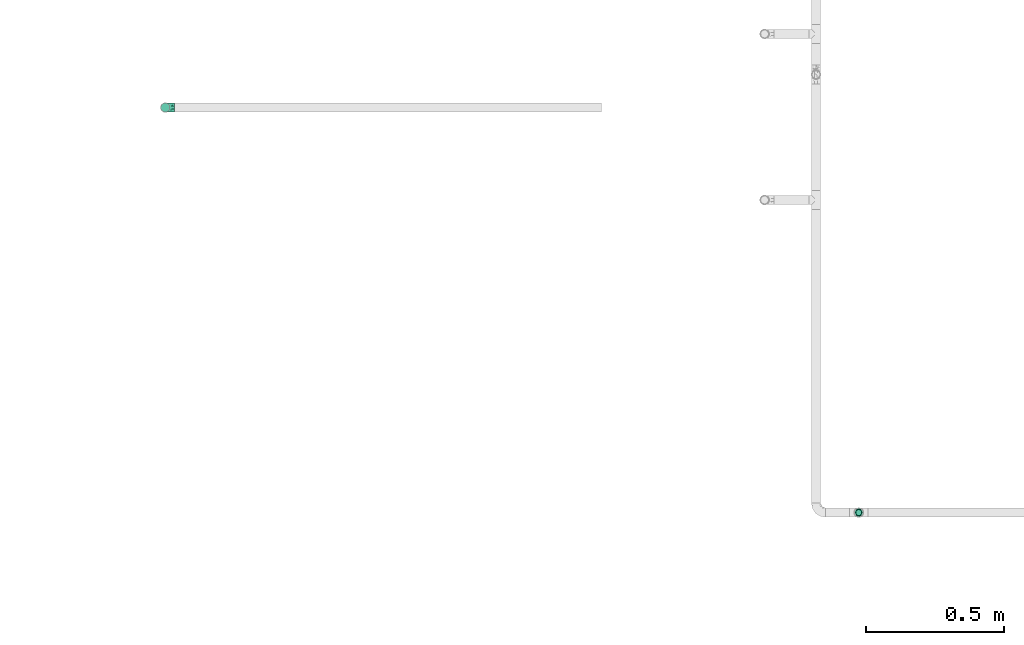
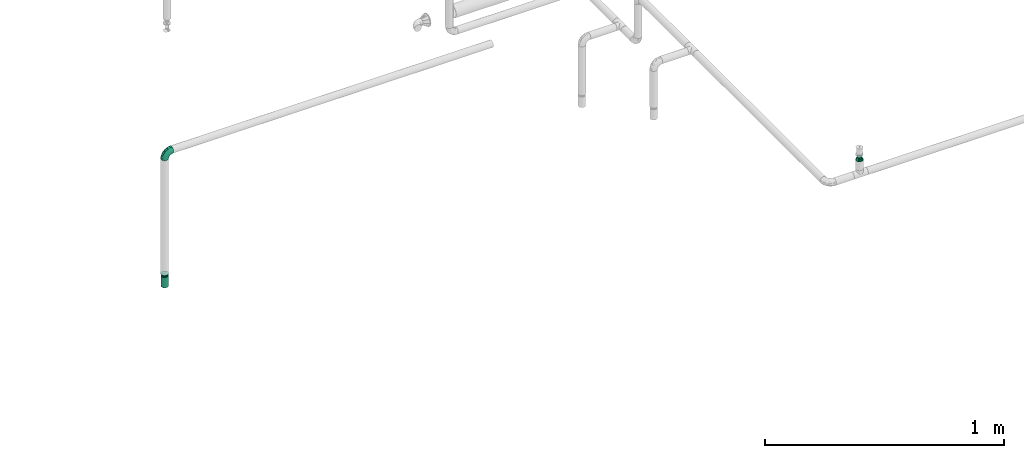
# One storey, part 51 of 157: 3 flow fittings, 1 flow terminal.
"""IFC2X3 building model written with IfcOpenShell, lengths in millimetres."""

from ifc_helpers import new_model, entity, si_unit, converted_unit, derived_unit, direction, frame, origin_with_axes, place, context, subcontext, project, spatial, open_shell, surface_model, source, transform, mapped, type_object, element, save


model = new_model("IFC2X3")

# Units and contexts
model_context = context("Model", 3, precision=0.01, world=frame((0.0, 4.29681676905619e-09, 0.0)), true_north=direction((4.01073788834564e-13, 1.0)))
plan_context = context("Plan", 3, precision=0.01, world=frame((0.0, 4.29681676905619e-09, 0.0)), true_north=direction((4.01073788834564e-13, 1.0)))
body_context = subcontext(model_context, "Body", "Model", "MODEL_VIEW")
ifc_project = project(units=[converted_unit("PLANEANGLEUNIT", "DEGREE", entity("IfcPositiveLengthMeasure", 0.0174532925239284), si_unit("PLANEANGLEUNIT", "RADIAN"), dimensions=[0, 0, 0, 0, 0, 0, 0]), si_unit("AREAUNIT", "SQUARE_METRE"), si_unit("LENGTHUNIT", "METRE", prefix="MILLI"), si_unit("MASSUNIT", "GRAM", prefix="KILO"), si_unit("POWERUNIT", "WATT"), si_unit("PRESSUREUNIT", "PASCAL"), si_unit("FORCEUNIT", "NEWTON", prefix="KILO"), si_unit("ELECTRICCURRENTUNIT", "AMPERE"), si_unit("THERMODYNAMICTEMPERATUREUNIT", "DEGREE_CELSIUS"), si_unit("TIMEUNIT", "SECOND"), si_unit("VOLUMEUNIT", "CUBIC_METRE"), derived_unit("LINEARVELOCITYUNIT", [(si_unit("LENGTHUNIT", "METRE"), 1), (si_unit("TIMEUNIT", "SECOND"), -1)]), derived_unit("VOLUMETRICFLOWRATEUNIT", [(si_unit("VOLUMEUNIT", "CUBIC_METRE"), 1), (si_unit("TIMEUNIT", "SECOND"), -1)]), derived_unit("THERMALTRANSMITTANCEUNIT", [(si_unit("POWERUNIT", "WATT"), 1), (si_unit("THERMODYNAMICTEMPERATUREUNIT", "KELVIN"), -1), (si_unit("AREAUNIT", "SQUARE_METRE"), -1)])], contexts=[model_context, plan_context])

# Site, building, storey
site_placement = place(None, frame((0.0, -4.29681676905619e-09, 0.0), z_axis=(0.0, 0.0, 1.0), x_axis=(1.0, 0.0, 0.0)))
site = spatial("IfcSite", under=ifc_project, at=site_placement, CompositionType="ELEMENT")
building_placement = place(site_placement, frame((0.0, 4.29681676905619e-09, 0.0), z_axis=(0.0, 0.0, 1.0), x_axis=(1.0, 0.0, 0.0)))
building = spatial("IfcBuilding", under=site, at=building_placement, Name="mc-building", CompositionType="ELEMENT")
storey_placement = place(building_placement, frame((0.0, 0.0, 204000.0), z_axis=(0.0, 0.0, 1.0), x_axis=(1.0, 0.0, 0.0)))
storey = spatial("IfcBuildingStorey", under=building, at=storey_placement, Name="Nivå D", CompositionType="ELEMENT", Elevation=204000.0)

# Flow fittings
pipe_fitting_type_1 = type_object("IfcPipeFittingType", Name="magi_pipe_fe_elbow_short_001", PredefinedType="BEND")
shared_shape_1 = source(origin_with_axes(), body_context, "Body", "SurfaceModel", [
    surface_model("IfcShellBasedSurfaceModel", [(-33.8, 8.45, -14.63583), (-33.8, 4.37404, -16.32415), (-33.8, 11.9501, -11.9501), (-33.8, -11.9501, -11.9501), (-33.8, -14.63583, -8.45), (-33.8, -8.45, -14.63583), (-33.8, 0.0, -16.9), (-33.8, -4.37404, -16.32415), (-33.8, -4.37404, 16.32415), (-33.8, 0.0, 16.9), (-33.8, -8.45, 14.63583), (-33.8, 16.32415, -4.37404), (-33.8, 14.63583, -8.45), (-33.8, -16.32415, -4.37404), (-33.8, -16.9, 0.0), (-33.8, -16.32415, 4.37404), (-33.8, 11.9501, 11.9501), (-33.8, 14.63583, 8.45), (-33.8, 16.32415, 4.37404), (-33.8, 4.37404, 16.32415), (-33.8, 8.45, 14.63583), (-33.8, -14.63583, 8.45), (-33.8, -11.9501, 11.9501), (-33.8, 16.9, 0.0), (-11.9501, 33.8, -11.9501), (0.0, 33.8, -16.9), (-4.37404, 33.8, -16.32415), (-8.45, 33.8, -14.63583), (-14.63583, 33.8, -8.45), (-16.32415, 33.8, -4.37404), (14.63583, 33.8, -8.45), (8.45, 33.8, 14.63583), (16.32415, 33.8, -4.37404), (8.45, 33.8, -14.63583), (11.9501, 33.8, -11.9501), (4.37404, 33.8, -16.32415), (16.32415, 33.8, 4.37404), (16.9, 33.8, 0.0), (-11.9501, 33.8, 11.9501), (-16.32415, 33.8, 4.37404), (-14.63583, 33.8, 8.45), (-8.45, 33.8, 14.63583), (-4.37404, 33.8, 16.32415), (11.9501, 33.8, 11.9501), (14.63583, 33.8, 8.45), (0.0, 33.8, 16.9), (4.37404, 33.8, 16.32415), (-16.9, 33.8, 0.0), (-24.79389, -13.12945, 9.48721), (-22.19287, -9.75018, 12.59315), (-24.09897, -14.97035, 0.0), (-14.93934, -10.76256, 8.5297), (-22.46095, -14.75051, 5.27077), (14.75051, 22.46094, 5.27077), (11.9251, 13.23888, 4.33236), (13.04069, 14.39795, 0.0), (7.71387, 13.68847, 11.55891), (9.75018, 22.19287, 12.59315), (4.10169, 13.0571, 14.04018), (-24.84007, -6.39063, 15.2048), (-25.81779, -2.23879, 16.61097), (-23.66549, 2.59054, 16.87119), (-26.50418, 14.06512, 11.08152), (-24.21253, 17.66365, 7.72657), (-29.58514, 15.86957, 7.00283), (-6.17382, -7.5455, 0.0), (-13.23888, -11.9251, 4.33236), (-14.39795, -13.04069, 0.0), (-17.81434, 18.87373, 11.97104), (-6.30846, 29.15138, 15.82987), (-2.31622, 25.28002, 16.85849), (-29.23923, 10.23435, 13.77053), (-1.45439, -2.85688, 7.61475), (-0.28326, 0.34872, 10.09509), (-5.74484, -4.04709, 10.4122), (-4.41137, 11.31918, 16.59407), (-8.39727, 3.10034, 15.7812), (-1.72649, 9.1306, 15.53089), (-17.39909, 24.75344, 7.64977), (-26.19233, 20.0512, 0.0), (-28.14518, 17.29657, 4.25857), (-26.05147, 6.6281, 15.96447), (-5.87354, 16.61944, 16.86968), (-12.51807, 12.51807, 16.48937), (-10.06312, 7.38516, 16.81295), (-3.01882, 3.01882, 13.81718), (-13.0571, -4.10169, 14.04018), (-16.82553, -0.15166, 16.38038), (10.76256, 14.93934, 8.5297), (13.12945, 24.79389, 9.48721), (6.39063, 24.84007, 15.2048), (2.23879, 25.81779, 16.61097), (-13.68847, -7.71387, 11.55891), (14.97035, 24.09897, 0.0), (-7.30894, 22.89991, 16.09489), (-10.67958, 26.17414, 14.008), (-12.78295, 18.26924, 15.06066), (-13.88562, 22.45231, 12.93244), (-18.04944, 15.16501, 14.04434), (-23.11658, 20.08178, 4.02986), (-21.84989, 21.84989, 0.0), (-18.55817, 25.48277, 3.93065), (-13.95142, 26.94732, 11.03289), (-18.57098, 7.23906, 16.59756), (-16.58335, 4.14122, 16.89279), (-17.96666, 11.46709, 15.63151), (-9.84453, 17.54304, 16.18938), (0.15166, 16.82553, 16.38038), (-23.27207, 11.47201, 14.23154), (3.84842, 5.86994, 10.70473), (-8.0212, -7.54413, 7.93275), (1.00345, -2.19508, 4.57414), (5.13203, 3.01004, 5.90201), (5.24161, 1.7543, 2.53265), (8.70457, 7.04947, 3.99182), (-20.0512, 26.19233, 0.0), (8.4852, 8.76699, 7.09296), (-4.55488, -6.72064, 4.90681), (2.05031, -2.05031, 0.0), (7.5455, 6.17382, 0.0), (-26.75399, 2.1369, -16.845), (-14.61995, 24.73803, -11.27736), (-28.45274, -13.45335, -9.81895), (-26.00469, 6.63555, -15.96645), (-23.06726, 20.04573, -4.26202), (-13.80647, -4.26506, -14.17873), (-14.67501, -0.21081, -16.07388), (-6.7902, -0.2828, -13.8478), (-24.53586, 11.08096, -14.13417), (-26.72048, 14.00837, -11.05776), (10.0967, 24.44989, -12.75976), (5.83237, 21.40218, -15.03047), (6.66249, 28.54238, -15.38093), (-20.38182, 15.48705, -12.74596), (12.53268, 21.23441, -9.15363), (12.54494, 15.67504, -5.54878), (9.7522, 12.89279, -8.66343), (-15.65186, 19.64213, -13.01327), (-12.03528, 20.66498, -14.67665), (-15.61907, 15.61906, -14.83879), (-25.56551, -15.26206, 0.0), (-24.65452, -15.12934, -5.50955), (13.45335, 28.45274, -9.81895), (15.12934, 24.65452, -5.50955), (-7.35442, -8.31014, -5.65563), (-15.67504, -12.54494, -5.54878), (-24.44989, -10.0967, -12.75976), (0.16522, 0.41303, -9.71728), (-5.70658, -5.33066, -8.89288), (-5.13869, -2.37198, -11.53565), (-21.23441, -12.53268, -9.15363), (0.71146, 7.93863, -14.09382), (0.21081, 14.67501, -16.07388), (3.49291, 14.42772, -14.76381), (-24.89911, -2.13088, -16.591), (-28.54238, -6.66249, -15.38093), (-18.44386, -7.71663, -13.26957), (2.13088, 24.89911, -16.591), (-28.64342, 17.44413, -2.89318), (1.70017, -1.28722, -5.09504), (-16.57067, 26.81947, -7.36596), (-17.69055, 27.4263, -3.76405), (-12.89279, -9.7522, -8.66343), (-5.96611, 5.96611, -15.95814), (-20.53709, 20.09345, -8.28985), (-2.1369, 26.75399, -16.845), (-6.89872, 24.58781, -16.02578), (-10.60739, 26.53157, -13.98044), (-21.40218, -5.83237, -15.03047), (2.93192, 5.89627, -11.55917), (6.89393, 12.61842, -11.82233), (5.58056, 5.95325, -8.79455), (-3.99512, 18.61798, -16.89635), (8.31014, 7.35442, -5.65563), (-9.1383, 9.86148, -16.89041), (-9.99983, 16.02119, -16.39699), (-16.68576, 9.78031, -16.34199), (-27.01915, 16.61158, -7.12979), (15.26206, 25.56551, 0.0), (-18.61798, 3.99512, -16.89635), (-19.37495, 27.82495, 0.0), (-12.61842, -6.89393, -11.82233), (-18.84705, 19.14018, -10.96545)], [open_shell([[[0, 1, 2]], [[3, 4, 5]], [[6, 7, 5]], [[8, 9, 10]], [[1, 6, 2]], [[11, 12, 2]], [[4, 2, 6]], [[2, 13, 10]], [[5, 4, 6]], [[2, 4, 13]], [[14, 15, 13]], [[11, 2, 16]], [[11, 17, 18]], [[11, 16, 17]], [[19, 20, 16]], [[16, 2, 10]], [[19, 16, 10]], [[21, 22, 15]], [[22, 13, 15]], [[22, 10, 13]], [[10, 9, 19]], [[11, 18, 23]], [[24, 25, 26]], [[24, 26, 27]], [[24, 28, 29]], [[25, 24, 30]], [[31, 32, 24]], [[33, 30, 34]], [[33, 35, 25]], [[25, 30, 33]], [[32, 30, 24]], [[32, 36, 37]], [[38, 24, 29]], [[39, 40, 29]], [[40, 38, 29]], [[38, 41, 42]], [[38, 31, 24]], [[31, 38, 42]], [[36, 43, 44]], [[36, 32, 43]], [[31, 45, 46]], [[32, 31, 43]], [[42, 45, 31]], [[39, 29, 47]], [[22, 48, 49]], [[15, 14, 50]], [[51, 48, 52]], [[53, 54, 55]], [[48, 22, 21]], [[15, 52, 21]], [[56, 57, 58]], [[49, 10, 22]], [[49, 59, 10]], [[9, 60, 61]], [[62, 63, 64]], [[65, 66, 67]], [[57, 43, 31]], [[62, 68, 63]], [[42, 69, 70]], [[20, 71, 16]], [[8, 60, 9]], [[72, 73, 74]], [[75, 76, 77]], [[16, 62, 17]], [[40, 39, 78]], [[79, 23, 80]], [[64, 18, 17]], [[9, 61, 19]], [[19, 81, 20]], [[82, 83, 84]], [[74, 85, 86]], [[59, 86, 87]], [[88, 89, 57]], [[90, 31, 46]], [[44, 53, 36]], [[46, 45, 91]], [[54, 53, 88]], [[44, 89, 53]], [[92, 86, 49]], [[89, 44, 43]], [[10, 59, 8]], [[53, 55, 93]], [[93, 36, 53]], [[66, 52, 67]], [[94, 82, 70]], [[95, 96, 94]], [[97, 98, 96]], [[79, 99, 100]], [[41, 38, 95]], [[101, 100, 99]], [[68, 78, 63]], [[42, 41, 69]], [[23, 18, 80]], [[95, 94, 69]], [[78, 101, 99]], [[38, 102, 95]], [[70, 45, 42]], [[97, 95, 102]], [[15, 50, 52]], [[90, 57, 31]], [[57, 90, 58]], [[81, 19, 61]], [[103, 104, 84]], [[105, 81, 103]], [[38, 40, 102]], [[106, 96, 83]], [[94, 106, 82]], [[91, 70, 107]], [[71, 62, 16]], [[62, 108, 98]], [[86, 59, 49]], [[67, 52, 50]], [[60, 59, 87]], [[92, 49, 51]], [[86, 85, 76]], [[91, 90, 46]], [[37, 36, 93]], [[107, 77, 58]], [[107, 58, 90]], [[58, 85, 109]], [[110, 74, 92]], [[72, 74, 110]], [[66, 51, 52]], [[72, 111, 112]], [[113, 114, 112]], [[56, 88, 57]], [[52, 48, 21]], [[49, 48, 51]], [[57, 89, 43]], [[53, 89, 88]], [[103, 81, 61]], [[71, 81, 108]], [[18, 64, 80]], [[63, 78, 99]], [[47, 115, 101]], [[101, 115, 100]], [[40, 78, 102]], [[68, 102, 78]], [[97, 96, 95]], [[105, 98, 108]], [[103, 84, 83]], [[107, 70, 82]], [[76, 84, 87]], [[82, 84, 75]], [[70, 91, 45]], [[90, 91, 107]], [[59, 60, 8]], [[61, 60, 87]], [[73, 85, 74]], [[109, 112, 116]], [[103, 61, 104]], [[105, 103, 83]], [[96, 105, 83]], [[81, 105, 108]], [[96, 98, 105]], [[62, 98, 68]], [[61, 87, 104]], [[87, 84, 104]], [[86, 76, 87]], [[77, 76, 85]], [[58, 77, 85]], [[75, 77, 107]], [[82, 75, 107]], [[76, 75, 84]], [[81, 71, 20]], [[62, 71, 108]], [[95, 69, 41]], [[70, 69, 94]], [[62, 64, 17]], [[80, 63, 99]], [[63, 80, 64]], [[80, 99, 79]], [[66, 65, 117]], [[110, 66, 117]], [[112, 114, 116]], [[118, 117, 65]], [[110, 92, 51]], [[112, 111, 113]], [[119, 55, 54]], [[74, 86, 92]], [[58, 109, 56]], [[116, 56, 109]], [[66, 110, 51]], [[72, 110, 117]], [[111, 72, 117]], [[73, 112, 109]], [[117, 118, 111]], [[113, 111, 118]], [[118, 119, 113]], [[114, 119, 54]], [[119, 114, 113]], [[116, 54, 88]], [[54, 116, 114]], [[116, 88, 56]], [[112, 73, 72]], [[85, 73, 109]], [[78, 39, 101]], [[47, 101, 39]], [[102, 68, 97]], [[97, 68, 98]], [[82, 106, 83]], [[94, 96, 106]], [[1, 120, 6]], [[28, 24, 121]], [[3, 122, 4]], [[0, 123, 1]], [[100, 124, 79]], [[125, 126, 127]], [[128, 2, 129]], [[130, 131, 132]], [[128, 129, 133]], [[134, 135, 136]], [[137, 138, 139]], [[128, 0, 2]], [[67, 140, 141]], [[134, 142, 143]], [[141, 13, 4]], [[144, 65, 145]], [[146, 3, 5]], [[147, 148, 149]], [[145, 141, 150]], [[151, 152, 153]], [[154, 7, 6]], [[5, 155, 146]], [[150, 146, 156]], [[155, 5, 7]], [[143, 135, 134]], [[35, 157, 25]], [[23, 79, 158]], [[148, 159, 144]], [[160, 161, 29]], [[145, 162, 144]], [[163, 152, 151]], [[29, 28, 160]], [[121, 164, 160]], [[33, 34, 130]], [[25, 165, 26]], [[26, 165, 166]], [[142, 34, 30]], [[24, 27, 167]], [[124, 161, 164]], [[157, 35, 132]], [[155, 154, 168]], [[123, 0, 128]], [[169, 170, 171]], [[172, 157, 152]], [[26, 166, 27]], [[132, 35, 33]], [[142, 130, 34]], [[168, 154, 126]], [[136, 135, 173]], [[133, 137, 139]], [[2, 12, 129]], [[170, 131, 130]], [[30, 32, 143]], [[172, 174, 175]], [[176, 123, 128]], [[158, 177, 11]], [[135, 55, 119]], [[167, 27, 166]], [[175, 166, 172]], [[137, 167, 138]], [[122, 141, 4]], [[140, 14, 13]], [[32, 37, 178]], [[170, 130, 134]], [[152, 157, 131]], [[165, 157, 172]], [[153, 170, 151]], [[152, 163, 174]], [[168, 125, 156]], [[122, 146, 150]], [[120, 154, 6]], [[179, 174, 126]], [[179, 126, 154]], [[126, 163, 127]], [[162, 145, 150]], [[140, 13, 141]], [[32, 178, 143]], [[55, 143, 178]], [[177, 129, 12]], [[128, 133, 139]], [[176, 128, 139]], [[120, 123, 179]], [[121, 160, 28]], [[161, 100, 180]], [[166, 175, 138]], [[121, 24, 167]], [[161, 47, 29]], [[79, 124, 158]], [[124, 164, 177]], [[161, 124, 100]], [[136, 171, 170]], [[127, 163, 151]], [[147, 171, 159]], [[148, 144, 162]], [[127, 151, 169]], [[127, 181, 125]], [[129, 177, 164]], [[12, 11, 177]], [[159, 65, 144]], [[67, 141, 145]], [[143, 55, 135]], [[135, 119, 173]], [[123, 120, 1]], [[154, 120, 179]], [[157, 165, 25]], [[166, 165, 172]], [[172, 152, 174]], [[176, 139, 175]], [[126, 174, 163]], [[176, 174, 179]], [[174, 176, 175]], [[123, 176, 179]], [[150, 181, 162]], [[127, 149, 181]], [[181, 148, 162]], [[159, 148, 147]], [[171, 136, 173]], [[170, 134, 136]], [[159, 171, 173]], [[171, 147, 169]], [[169, 147, 149]], [[151, 170, 169]], [[164, 182, 129]], [[182, 121, 137]], [[181, 149, 148]], [[169, 149, 127]], [[182, 137, 133]], [[167, 137, 121]], [[166, 138, 167]], [[175, 139, 138]], [[129, 182, 133]], [[121, 182, 164]], [[161, 160, 164]], [[47, 161, 180]], [[177, 158, 124]], [[23, 158, 11]], [[130, 132, 33]], [[157, 132, 131]], [[143, 142, 30]], [[130, 142, 134]], [[154, 155, 7]], [[146, 155, 168]], [[146, 122, 3]], [[141, 122, 150]], [[152, 131, 153]], [[159, 119, 118]], [[67, 145, 65]], [[170, 153, 131]], [[119, 159, 173]], [[159, 118, 65]], [[156, 125, 181]], [[126, 125, 168]], [[150, 156, 181]], [[168, 156, 146]]])]),
])
flow_fitting_placement = place(storey_placement, frame((516334.09988, 413334.05389, 3030.0), z_axis=(0.0, 1.0, 0.0), x_axis=(0.0, 0.0, 1.0)))
element("IfcFlowFitting", 1, at=flow_fitting_placement, inside=storey, type_object=pipe_fitting_type_1, Name="magi_pipe_fe_elbow_short_001", context=body_context, shape_type="MappedRepresentation", body=[
    mapped(shared_shape_1, transform((0.0, 0.0, 0.0), scale=1.0)),
])
pipe_fitting_type_2 = type_object("IfcPipeFittingType", Name="magi_pipe_fe_reducer_centric_short_NOR", PredefinedType="TRANSITION")
shared_shape_2 = source(origin_with_axes(), body_context, "Body", "SurfaceModel", [
    surface_model("IfcShellBasedSurfaceModel", [(-2.0, -7.56604, -7.56604), (-2.0, -10.33541, -2.76936), (-2.0, -5.35, -9.26647), (-2.0, 5.35, -9.26647), (-2.0, 10.33541, -2.76936), (-2.0, 7.56604, -7.56604), (12.4, 11.9501, 11.9501), (12.4, 0.0, 16.9), (12.4, 11.9501, -11.9501), (12.4, 16.9, 0.0), (0.0, -10.7, 0.0), (0.0, -5.35, 9.26647), (0.0, -5.35, -9.26647), (0.0, 10.7, 0.0), (12.4, 15.66253, -2.98753), (12.4, 8.96258, -13.18758), (0.0, 6.6875, -6.94985), (12.4, -15.66253, -2.98753), (12.4, -16.9, 0.0), (12.4, 5.97505, -14.42505), (0.0, 5.35, -9.26647), (12.4, 14.42505, -5.97505), (0.0, 8.025, -4.63324), (0.0, 9.3625, -2.31662), (0.0, -9.3625, -2.31662), (0.0, -8.025, -4.63324), (12.4, -14.42505, -5.97505), (12.4, 13.18758, -8.96258), (12.4, -13.18758, -8.96258), (12.4, -11.9501, -11.9501), (0.0, -6.6875, -6.94985), (12.4, -8.96258, -13.18758), (12.4, -5.97505, -14.42505), (12.4, -15.66253, 2.98753), (12.4, -8.96258, 13.18758), (0.0, -6.6875, 6.94985), (12.4, -11.9501, 11.9501), (12.4, 15.66253, 2.98753), (12.4, -5.97505, 14.42505), (12.4, -14.42505, 5.97505), (0.0, -8.025, 4.63324), (0.0, -9.3625, 2.31662), (0.0, 9.3625, 2.31662), (0.0, 8.025, 4.63324), (12.4, 14.42505, 5.97505), (12.4, -13.18758, 8.96258), (12.4, 13.18758, 8.96258), (0.0, 6.6875, 6.94985), (12.4, 8.96258, 13.18758), (0.0, 5.35, 9.26647), (12.4, 5.97505, 14.42505), (14.4, 4.37404, -16.32415), (14.4, 8.45, -14.63583), (14.4, 11.9501, -11.9501), (14.4, -8.45, -14.63583), (14.4, 16.32415, -4.37404), (14.4, 16.32415, 4.37404), (14.4, 14.63583, -8.45), (14.4, 0.0, -16.9), (14.4, -4.37404, -16.32415), (14.4, -11.9501, -11.9501), (14.4, -16.32415, -4.37404), (14.4, -14.63583, -8.45), (14.4, -16.32415, 4.37404), (14.4, 16.9, 0.0), (14.4, 14.63583, 8.45), (14.4, 11.9501, 11.9501), (14.4, 4.37404, 16.32415), (14.4, 8.45, 14.63583), (14.4, 0.0, 16.9), (14.4, -14.63583, 8.45), (14.4, -16.9, 0.0), (14.4, -8.45, 14.63583), (14.4, -11.9501, 11.9501), (14.4, -4.37404, 16.32415), (12.4, 4.37404, 16.32415), (12.4, -14.63583, 8.45), (12.4, 16.32415, 4.37404), (12.4, 8.45, 14.63583), (12.4, 14.63583, 8.45), (12.4, -8.45, 14.63583), (12.4, -4.37404, 16.32415), (12.4, -16.32415, 4.37404), (12.4, -16.32415, -4.37404), (12.4, -8.45, -14.63583), (12.4, 16.32415, -4.37404), (12.4, 14.63583, -8.45), (12.4, 8.45, -14.63583), (12.4, 4.37404, -16.32415), (12.4, 0.0, -16.9), (12.4, -14.63583, -8.45), (12.4, -4.37404, -16.32415), (-2.0, 2.76936, 10.33541), (-2.0, 0.0, 10.7), (-2.0, 5.35, 9.26647), (-2.0, 7.56604, 7.56604), (-2.0, 9.26647, 5.35), (-2.0, 10.33541, 2.76936), (-2.0, -10.33541, 2.76936), (-2.0, -2.76936, 10.33541), (-2.0, -7.56604, 7.56604), (-2.0, -5.35, 9.26647), (-2.0, -9.26647, 5.35), (-2.0, -10.7, 0.0), (-2.0, 9.26647, -5.35), (-2.0, 2.76936, -10.33541), (-2.0, -9.26647, -5.35), (-2.0, 0.0, -10.7), (-2.0, -2.76936, -10.33541), (-2.0, 10.7, 0.0), (0.0, 0.0, -10.7), (0.0, 2.76936, -10.33541), (0.0, 10.33541, -2.76936), (0.0, 7.56604, -7.56604), (0.0, -10.33541, -2.76936), (0.0, 9.26647, -5.35), (0.0, 0.0, 10.7), (0.0, -2.76936, -10.33541), (0.0, -7.56604, -7.56604), (0.0, -9.26647, -5.35), (0.0, 10.33541, 2.76936), (0.0, 9.26647, 5.35), (0.0, 7.56604, 7.56604), (0.0, 2.76936, 10.33541), (0.0, -7.56604, 7.56604), (0.0, -10.33541, 2.76936), (0.0, -9.26647, 5.35), (0.0, -2.76936, 10.33541), (0.0, 2.675, -9.26647), (0.0, -2.675, -9.26647), (12.4, 2.98753, -15.66253), (0.0, 0.0, -9.26647), (12.4, -2.98753, -15.66253), (0.0, -2.675, 9.26647), (0.0, 2.675, 9.26647), (12.4, -2.98753, 15.66253), (0.0, 0.0, 9.26647), (12.4, 2.98753, 15.66253)], [open_shell([[[0, 1, 2]], [[3, 4, 5]], [[6, 7, 8]], [[8, 9, 6]], [[10, 11, 12]], [[13, 9, 14]], [[15, 16, 8]], [[17, 18, 10]], [[15, 19, 20]], [[21, 22, 23]], [[24, 25, 26]], [[22, 21, 27]], [[28, 26, 25]], [[29, 30, 31]], [[12, 32, 31]], [[10, 18, 33]], [[34, 35, 36]], [[37, 9, 13]], [[34, 38, 11]], [[39, 40, 41]], [[42, 43, 44]], [[40, 39, 45]], [[46, 44, 43]], [[6, 47, 48]], [[49, 50, 48]], [[51, 52, 53]], [[54, 51, 53]], [[53, 55, 56]], [[55, 53, 57]], [[53, 56, 54]], [[58, 54, 59]], [[58, 51, 54]], [[60, 61, 62]], [[61, 60, 54]], [[54, 63, 61]], [[56, 55, 64]], [[56, 65, 66]], [[56, 66, 67]], [[67, 63, 54]], [[67, 66, 68]], [[63, 67, 69]], [[69, 70, 63]], [[71, 61, 63]], [[70, 72, 73]], [[70, 69, 72]], [[72, 69, 74]], [[54, 56, 67]], [[75, 76, 7]], [[77, 75, 78]], [[6, 79, 77]], [[6, 77, 78]], [[76, 75, 77]], [[80, 76, 36]], [[80, 81, 7]], [[7, 76, 80]], [[82, 76, 77]], [[82, 83, 18]], [[82, 77, 84]], [[77, 85, 8]], [[8, 85, 86]], [[8, 87, 88]], [[84, 77, 8]], [[88, 89, 8]], [[83, 29, 90]], [[29, 83, 84]], [[84, 89, 91]], [[83, 82, 84]], [[8, 89, 84]], [[85, 77, 9]], [[83, 61, 18]], [[90, 62, 83]], [[54, 29, 84]], [[90, 29, 60]], [[59, 84, 91]], [[83, 62, 61]], [[61, 71, 18]], [[59, 54, 84]], [[60, 29, 54]], [[60, 62, 90]], [[58, 59, 91]], [[91, 89, 58]], [[88, 51, 89]], [[87, 52, 88]], [[57, 8, 86]], [[87, 8, 53]], [[55, 86, 85]], [[87, 53, 52]], [[52, 51, 88]], [[64, 55, 85]], [[57, 86, 55]], [[57, 53, 8]], [[9, 64, 85]], [[89, 51, 58]], [[77, 56, 9]], [[79, 65, 77]], [[68, 6, 78]], [[79, 6, 66]], [[67, 78, 75]], [[77, 65, 56]], [[56, 64, 9]], [[67, 68, 78]], [[66, 6, 68]], [[66, 65, 79]], [[69, 67, 75]], [[75, 7, 69]], [[81, 74, 7]], [[80, 72, 81]], [[70, 36, 76]], [[80, 36, 73]], [[63, 76, 82]], [[80, 73, 72]], [[72, 74, 81]], [[71, 63, 82]], [[70, 76, 63]], [[70, 73, 36]], [[18, 71, 82]], [[7, 74, 69]], [[92, 1, 93]], [[94, 1, 92]], [[95, 96, 97]], [[95, 97, 94]], [[98, 93, 1]], [[99, 100, 101]], [[99, 93, 100]], [[100, 98, 102]], [[93, 98, 100]], [[98, 1, 103]], [[94, 97, 1]], [[1, 97, 4]], [[5, 4, 104]], [[4, 3, 1]], [[105, 1, 3]], [[1, 0, 106]], [[2, 107, 108]], [[2, 1, 105]], [[105, 107, 2]], [[4, 97, 109]], [[20, 110, 111]], [[112, 20, 113]], [[114, 20, 112]], [[112, 113, 115]], [[116, 114, 112]], [[110, 12, 117]], [[110, 20, 12]], [[118, 114, 119]], [[114, 118, 12]], [[20, 114, 12]], [[112, 13, 120]], [[120, 121, 122]], [[120, 122, 123]], [[116, 112, 123]], [[123, 122, 49]], [[116, 124, 114]], [[125, 124, 126]], [[10, 114, 125]], [[124, 127, 11]], [[125, 114, 124]], [[127, 124, 116]], [[123, 112, 120]], [[1, 114, 103]], [[106, 119, 1]], [[12, 0, 2]], [[106, 0, 118]], [[117, 2, 108]], [[1, 119, 114]], [[114, 10, 103]], [[117, 12, 2]], [[118, 0, 12]], [[118, 119, 106]], [[110, 117, 108]], [[108, 107, 110]], [[105, 111, 107]], [[3, 20, 105]], [[115, 5, 104]], [[3, 5, 113]], [[112, 104, 4]], [[3, 113, 20]], [[20, 111, 105]], [[13, 112, 4]], [[115, 104, 112]], [[115, 113, 5]], [[109, 13, 4]], [[107, 111, 110]], [[97, 120, 109]], [[96, 121, 97]], [[49, 95, 94]], [[96, 95, 122]], [[123, 94, 92]], [[97, 121, 120]], [[120, 13, 109]], [[123, 49, 94]], [[122, 95, 49]], [[122, 121, 96]], [[116, 123, 92]], [[92, 93, 116]], [[99, 127, 93]], [[101, 11, 99]], [[126, 100, 102]], [[101, 100, 124]], [[125, 102, 98]], [[101, 124, 11]], [[11, 127, 99]], [[10, 125, 98]], [[126, 102, 125]], [[126, 124, 100]], [[103, 10, 98]], [[93, 127, 116]], [[18, 7, 36]], [[18, 29, 8]], [[89, 8, 29]], [[18, 8, 7]], [[13, 11, 49]], [[13, 20, 12]], [[13, 12, 11]], [[24, 26, 17]], [[10, 24, 17]], [[16, 15, 20]], [[30, 12, 31]], [[23, 14, 21]], [[19, 128, 20]], [[27, 8, 16]], [[32, 12, 129]], [[30, 28, 25]], [[130, 131, 128]], [[129, 132, 32]], [[16, 22, 27]], [[13, 14, 23]], [[128, 19, 130]], [[130, 89, 131]], [[131, 132, 129]], [[89, 132, 131]], [[28, 30, 29]], [[42, 44, 37]], [[13, 42, 37]], [[35, 34, 11]], [[47, 49, 48]], [[41, 33, 39]], [[38, 133, 11]], [[45, 36, 35]], [[50, 49, 134]], [[47, 46, 43]], [[135, 136, 133]], [[134, 137, 50]], [[35, 40, 45]], [[10, 33, 41]], [[133, 38, 135]], [[135, 7, 136]], [[136, 137, 134]], [[7, 137, 136]], [[46, 47, 6]]])]),
])
for number, where, z_axis, x_axis, name in (
    (2, (518840.35, 411870.36705, 3014.54800000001), (0.0, 1.0, 0.0), (0.0, 0.0, -1.0), "magi_pipe_fe_reducer_centric_short_NOR"),
    (3, (516334.09988, 413334.05389, 2396.95199999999), (0.0, 1.0, 0.0), (0.0, 0.0, 1.0), "magi_pipe_fe_reducer_centric_short_NOR"),
):
    element("IfcFlowFitting", number, at=place(storey_placement, frame(where, z_axis=z_axis, x_axis=x_axis)), inside=storey, type_object=pipe_fitting_type_2, Name=name, context=body_context, shape_type="MappedRepresentation", body=[
        mapped(shared_shape_2, transform((0.0, 0.0, 0.0), scale=1.0)),
    ])

# Flow terminal
fire_suppression_terminal_type = type_object("IfcFireSuppressionTerminalType", Name="SP-15-K80-68DGR-STD-STÅENDE", PredefinedType="NOTDEFINED")
shared_shape_3 = source(origin_with_axes(), body_context, "Body", "SurfaceModel", [
    surface_model("IfcShellBasedSurfaceModel", [(4.1411, -15.45481, 53.0), (8.0, -13.85641, 53.0), (11.31371, -11.31371, 53.0), (-8.0, -13.85641, 53.0), (15.45481, -4.1411, 53.0), (16.0, 0.0, 53.0), (13.85641, -8.0, 53.0), (0.0, -16.0, 53.0), (-4.1411, -15.45481, 53.0), (-13.85641, -8.0, 53.0), (-11.31371, -11.31371, 53.0), (-15.45481, -4.1411, 53.0), (15.45481, 4.1411, 53.0), (13.85641, 8.0, 53.0), (11.31371, 11.31371, 53.0), (-4.1411, 15.45481, 53.0), (8.0, 13.85641, 53.0), (4.1411, 15.45481, 53.0), (0.0, 16.0, 53.0), (-13.85641, 8.0, 53.0), (-15.45481, 4.1411, 53.0), (-16.0, 0.0, 53.0), (-11.31371, 11.31371, 53.0), (-8.0, 13.85641, 53.0), (0.0, 16.0, 0.0), (4.1411, 15.45481, 0.0), (8.0, 13.85641, 0.0), (-4.1411, 15.45481, 0.0), (11.31371, 11.31371, 0.0), (13.85641, 8.0, 0.0), (15.45481, 4.1411, 0.0), (-15.45481, -4.1411, 0.0), (-11.31371, 11.31371, 0.0), (-8.0, 13.85641, 0.0), (-13.85641, 8.0, 0.0), (-15.45481, 4.1411, 0.0), (-16.0, 0.0, 0.0), (4.1411, -15.45481, 0.0), (16.0, 0.0, 0.0), (15.45481, -4.1411, 0.0), (13.85641, -8.0, 0.0), (11.31371, -11.31371, 0.0), (8.0, -13.85641, 0.0), (-8.0, -13.85641, 0.0), (-13.85641, -8.0, 0.0), (-11.31371, -11.31371, 0.0), (0.0, -16.0, 0.0), (-4.1411, -15.45481, 0.0)], [open_shell([[[0, 1, 2]], [[3, 0, 2]], [[4, 5, 2]], [[4, 2, 6]], [[3, 2, 5]], [[7, 3, 8]], [[7, 0, 3]], [[3, 9, 10]], [[9, 3, 11]], [[5, 11, 3]], [[5, 12, 11]], [[12, 13, 14]], [[15, 12, 14]], [[16, 17, 18]], [[14, 16, 15]], [[18, 15, 16]], [[11, 19, 20]], [[21, 11, 20]], [[22, 15, 23]], [[15, 22, 19]], [[19, 11, 15]], [[11, 12, 15]], [[24, 25, 26]], [[27, 24, 26]], [[28, 29, 30]], [[27, 26, 28]], [[27, 28, 31]], [[27, 32, 33]], [[32, 27, 34]], [[34, 31, 35]], [[31, 34, 27]], [[35, 31, 36]], [[28, 30, 31]], [[37, 38, 39]], [[37, 39, 40]], [[41, 42, 37]], [[41, 37, 40]], [[38, 37, 43]], [[44, 43, 45]], [[43, 44, 31]], [[43, 46, 47]], [[43, 31, 38]], [[37, 46, 43]], [[38, 31, 30]], [[11, 31, 44]], [[45, 9, 44]], [[3, 43, 47]], [[45, 43, 10]], [[8, 47, 46]], [[31, 21, 36]], [[31, 11, 21]], [[44, 9, 11]], [[45, 10, 9]], [[3, 10, 43]], [[47, 8, 3]], [[46, 7, 8]], [[0, 37, 42]], [[41, 1, 42]], [[6, 40, 39]], [[41, 40, 2]], [[4, 39, 38]], [[37, 0, 7]], [[42, 1, 0]], [[41, 2, 1]], [[40, 6, 2]], [[4, 6, 39]], [[38, 5, 4]], [[37, 7, 46]], [[12, 38, 30]], [[13, 30, 29]], [[16, 26, 25]], [[17, 25, 24]], [[30, 13, 12]], [[12, 5, 38]], [[28, 14, 13]], [[28, 26, 14]], [[14, 26, 16]], [[25, 17, 16]], [[28, 13, 29]], [[24, 18, 17]], [[15, 27, 33]], [[32, 23, 33]], [[19, 34, 35]], [[32, 34, 22]], [[20, 35, 36]], [[27, 15, 18]], [[33, 23, 15]], [[32, 22, 23]], [[34, 19, 22]], [[20, 19, 35]], [[36, 21, 20]], [[27, 18, 24]]])]),
])
flow_terminal_placement = place(storey_placement, frame((516334.09988, 413334.05389, 2400.0), z_axis=(0.0, 0.0, -1.0), x_axis=(1.0, 0.0, 0.0)))
element("IfcFlowTerminal", 4, at=flow_terminal_placement, inside=storey, type_object=fire_suppression_terminal_type, Name="SP-15-K80-68DGR-STD-STÅENDE", context=body_context, shape_type="MappedRepresentation", body=[
    mapped(shared_shape_3, transform((0.0, 0.0, 0.0), scale=1.0)),
])

save(model, "model.ifc")
